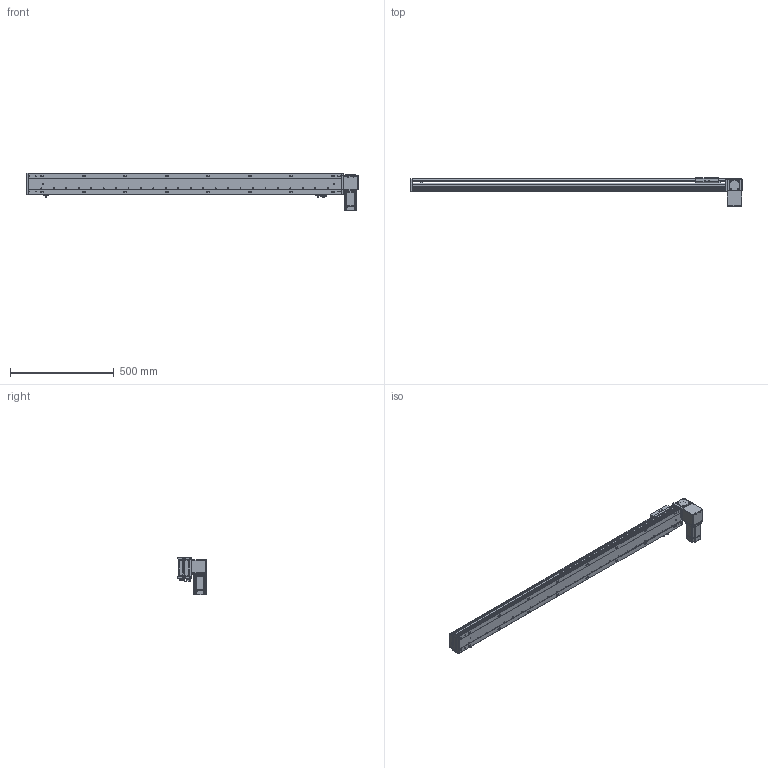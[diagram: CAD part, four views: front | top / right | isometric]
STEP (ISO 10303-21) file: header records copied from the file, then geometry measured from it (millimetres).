
FILE_DESCRIPTION (( 'STEP AP203' ), '1' );
FILE_NAME ('RY100-T-300-DL.SLDASM_1300.step', '2024-04-24T01:11:54', ( '盈信电脑' ), ( '东莞市道滘镇水果街19号' ), 'SwSTEP 2.0', 'SolidWorks 2016', '' );
FILE_SCHEMA (( 'CONFIG_CONTROL_DESIGN' ));
Length unit declared in the file: millimetre
Products named in the file (16): 滅袉蝶18-10; RY100-T翋肮祭謫裔啣2; RY100-T翋肮祭謫粣; RY100綴裔啣; RY100-T-300-DL.SLDASM_1300; 覜茼ん672; RY100-T左右折电机安装板; RY80-T肮祭謫狟殏俋欶; RY100-T肮祭謫翋盓傅釱; RY100-T粣創揤踡裔; RY100俋离覜茼え; RY100-T-300-RK倰第菁釱_1300; 1; RY100-T-300-RK倰第奻裔_1300; RY100-T翋肮祭謫裔啣; RY100-T肮祭謫臏賑輸
Assembly tree (18 placements, depth 2):
  RY100-T-300-DL.SLDASM_1300
    RY100-T-300-RK倰第菁釱_1300
    RY100-T-300-RK倰第奻裔_1300
    RY100-T肮祭謫臏賑輸
    RY100綴裔啣
    覜茼ん672  x3
    RY100俋离覜茼え
    RY100-T翋肮祭謫粣
    RY100-T肮祭謫翋盓傅釱
    滅袉蝶18-10  x2
    RY100-T翋肮祭謫裔啣
    1
    RY100-T左右折电机安装板
    RY100-T粣創揤踡裔
    RY100-T翋肮祭謫裔啣2
    RY80-T肮祭謫狟殏俋欶
Bounding box: 1600 x 135.5 x 182.5 mm (x, y, z)
Volume: 3122110.4 mm3; surface area: 1298306.3 mm2
Topology: 18 solids, 18 shells, 2259 faces, 6268 edges, 4070 vertices
Faces by surface type: plane 1215, cylinder 825, cone 141, bspline 78
Entity records: 72927 total; most frequent: CARTESIAN_POINT 17556, ORIENTED_EDGE 11368, DIRECTION 10864, EDGE_CURVE 5684, VERTEX_POINT 3738, VECTOR 3650, LINE 3650, AXIS2_PLACEMENT_3D 3607
